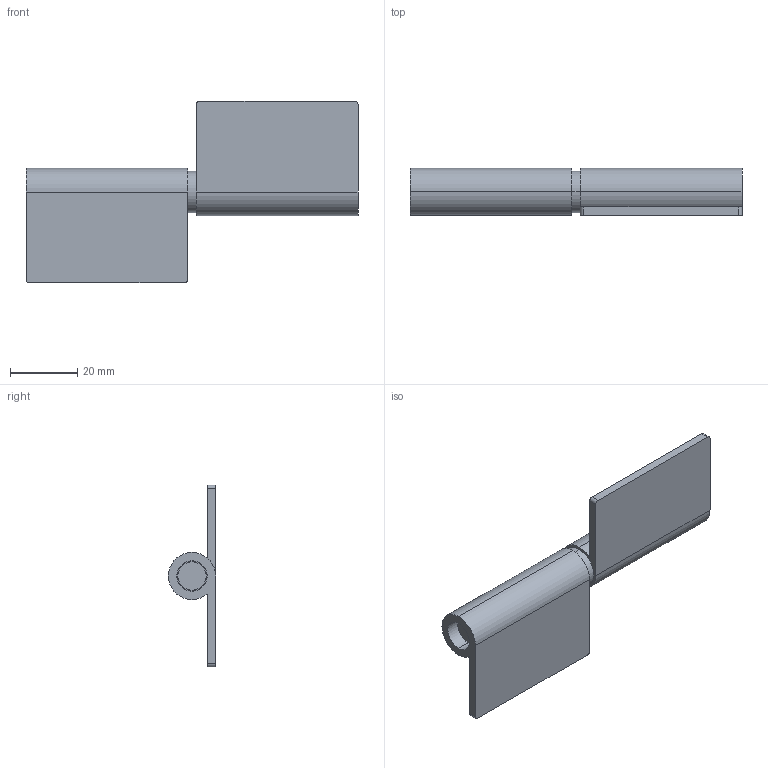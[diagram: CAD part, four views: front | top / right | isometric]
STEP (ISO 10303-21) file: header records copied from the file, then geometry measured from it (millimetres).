
FILE_DESCRIPTION (( 'STEP AP203' ), '1' );
FILE_NAME ('B30-25050.STEP', '2025-03-05T08:07:52', ( '' ), ( '' ), 'SwSTEP 2.0', 'SolidWorks 2021', '' );
FILE_SCHEMA (( 'CONFIG_CONTROL_DESIGN' ));
Length unit declared in the file: millimetre
Products named in the file (3): B30-25050-軸; B30-25050-片; B30-25050
Assembly tree (3 placements, depth 2):
  B30-25050
    B30-25050-片  x2
    B30-25050-軸
Bounding box: 98.6 x 14 x 54 mm (x, y, z)
Volume: 19462.4 mm3; surface area: 14518.5 mm2
Topology: 3 solids, 3 shells, 34 faces, 78 edges, 52 vertices
Faces by surface type: cylinder 20, plane 14
Entity records: 959 total; most frequent: DIRECTION 130, CARTESIAN_POINT 108, ORIENTED_EDGE 96, AXIS2_PLACEMENT_3D 54, EDGE_CURVE 48, VERTEX_POINT 32, PERSON_AND_ORGANIZATION 27, EDGE_LOOP 26
